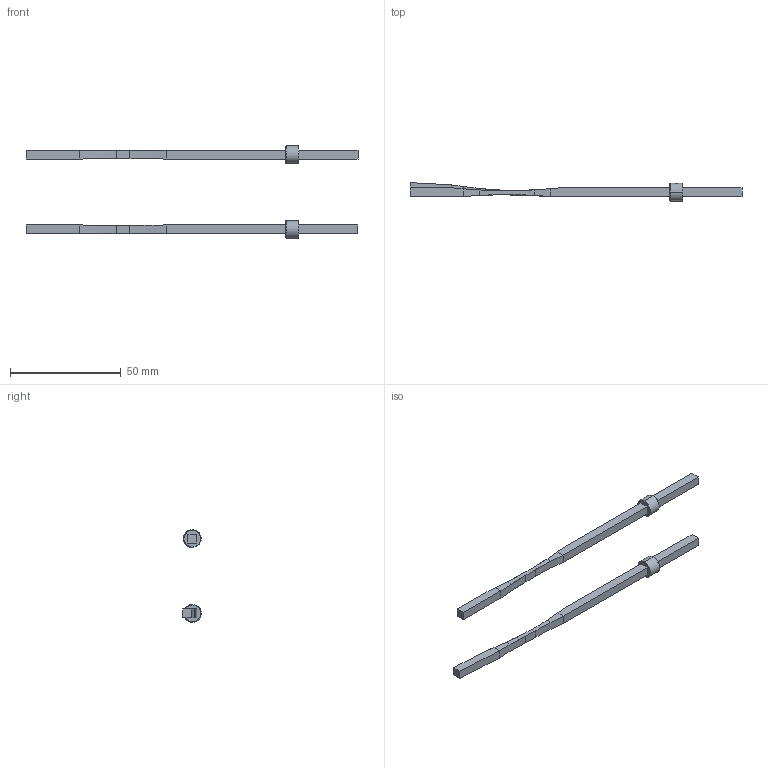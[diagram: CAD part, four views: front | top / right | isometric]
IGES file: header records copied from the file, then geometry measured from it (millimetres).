
Start section: START RECORD GO HERE.
Global section: file name: pf044150.igs; native system: DASSAULT SYSTEMES CATIA V5 R20 - www.3ds.com; preprocessor: CATIA Version 5 Release 20 ; author: Utente; organization: NB04-ASUS; date: 20201103.213840; units: millimetre
Bounding box: 150.02 x 8.45 x 41.76 mm (x, y, z)
Surface area: 5177.3 mm2 (no closed solid volume)
Topology: 0 solids, 0 shells, 74 faces, 368 edges, 364 vertices
Faces by surface type: plane 40, revolution 34
